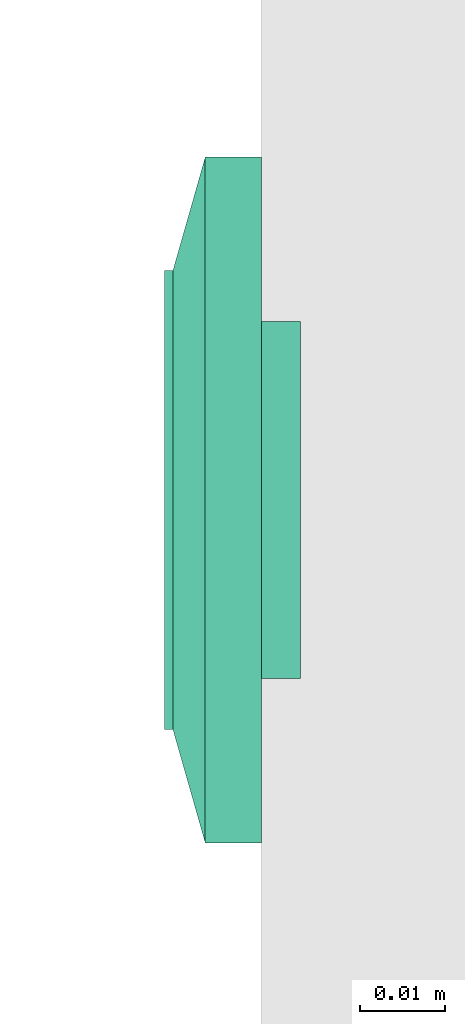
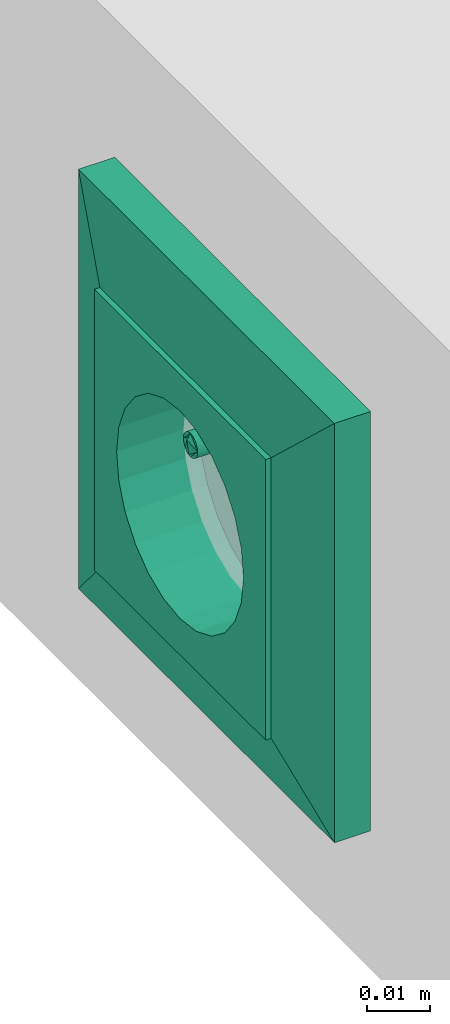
# One storey, part 138 of 153: 1 flow terminal.
"""IFC2X3 building model written with IfcOpenShell, lengths in metres."""

from ifc_helpers import new_model, entity, si_unit, converted_unit, derived_unit, direction, frame, origin, place, context, subcontext, project, spatial, face_set, surface_model, source, transform, mapped, type_object, type_shapes, element, save


model = new_model("IFC2X3")

# Units and contexts
model_context = context("Model", 3, precision=1e-05, world=origin(), true_north=direction((6.12303176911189e-17, 1.0)))
body_context = subcontext(model_context, "Body", "Model", "MODEL_VIEW")
ifc_project = project(units=[si_unit("LENGTHUNIT", "METRE"), si_unit("AREAUNIT", "SQUARE_METRE"), si_unit("VOLUMEUNIT", "CUBIC_METRE"), converted_unit("PLANEANGLEUNIT", "DEGREE", entity("IfcRatioMeasure", 0.0174532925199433), si_unit("PLANEANGLEUNIT", "RADIAN"), dimensions=[0, 0, 0, 0, 0, 0, 0]), si_unit("MASSUNIT", "GRAM", prefix="KILO"), derived_unit("MASSDENSITYUNIT", [(si_unit("MASSUNIT", "GRAM", prefix="KILO"), 1), (si_unit("LENGTHUNIT", "METRE"), -3)]), si_unit("TIMEUNIT", "SECOND"), si_unit("FREQUENCYUNIT", "HERTZ"), si_unit("THERMODYNAMICTEMPERATUREUNIT", "DEGREE_CELSIUS"), derived_unit("THERMALTRANSMITTANCEUNIT", [(si_unit("MASSUNIT", "GRAM", prefix="KILO"), 1), (si_unit("THERMODYNAMICTEMPERATUREUNIT", "KELVIN"), -1), (si_unit("TIMEUNIT", "SECOND"), -3)]), derived_unit("VOLUMETRICFLOWRATEUNIT", [(si_unit("LENGTHUNIT", "METRE"), 3), (si_unit("TIMEUNIT", "SECOND"), -1)]), si_unit("ELECTRICCURRENTUNIT", "AMPERE"), si_unit("ELECTRICVOLTAGEUNIT", "VOLT"), si_unit("POWERUNIT", "WATT"), si_unit("FORCEUNIT", "NEWTON"), si_unit("ILLUMINANCEUNIT", "LUX"), si_unit("LUMINOUSFLUXUNIT", "LUMEN"), si_unit("LUMINOUSINTENSITYUNIT", "CANDELA"), derived_unit("USERDEFINED", [(si_unit("MASSUNIT", "GRAM", prefix="KILO"), -1), (si_unit("LENGTHUNIT", "METRE"), -2), (si_unit("TIMEUNIT", "SECOND"), 3), (si_unit("LUMINOUSFLUXUNIT", "LUMEN"), 1)]), derived_unit("LINEARVELOCITYUNIT", [(si_unit("LENGTHUNIT", "METRE"), 1), (si_unit("TIMEUNIT", "SECOND"), -1)]), si_unit("PRESSUREUNIT", "PASCAL"), derived_unit("USERDEFINED", [(si_unit("LENGTHUNIT", "METRE"), -2), (si_unit("MASSUNIT", "GRAM", prefix="KILO"), 1), (si_unit("TIMEUNIT", "SECOND"), -2)])], contexts=[model_context])

# Site, building, storey
site_placement = place(None, origin())
site = spatial("IfcSite", under=ifc_project, at=site_placement, Name="Default", CompositionType="ELEMENT")
building_placement = place(site_placement, origin())
building = spatial("IfcBuilding", under=site, at=building_placement, CompositionType="ELEMENT")
storey_placement = place(building_placement, frame((0.0, 0.0, -4.62)))
storey = spatial("IfcBuildingStorey", under=building, at=storey_placement, Name="S02", CompositionType="ELEMENT", Elevation=-4.62)

# Flow terminal
light_fixture_type = type_object("IfcLightFixtureType", Name="IP20 ONDULEE", PredefinedType="NOTDEFINED")
shared_shape = source(origin(), body_context, "Body", "SurfaceModel", [
    surface_model("IfcFaceBasedSurfaceModel", [(-0.00225000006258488, 0.0127499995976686, 0.00949633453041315), (0.0, 0.0104999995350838, 0.00949633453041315), (0.0, 0.0115376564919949, 0.0101656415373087), (0.0, 0.0139623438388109, 0.0101656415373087), (0.0, 0.0144589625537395, 0.00984531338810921), (0.0, 0.0121178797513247, 0.0102778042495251), (0.0, 0.0133821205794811, 0.0102778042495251), (0.0, 0.0127499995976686, 0.010399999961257), (0.0, 0.0149999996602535, 0.00949633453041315), (0.00225000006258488, 0.0127499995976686, 0.00949633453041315), (0.0, 0.0110410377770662, 0.00984531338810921), (0.0, 0.0127499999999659, 0.00949633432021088), (0.00225000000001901, 0.0127499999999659, 0.00949633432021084), (0.00217333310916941, 0.0121676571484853, 0.00949633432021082), (0.00194855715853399, 0.0116249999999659, 0.00949633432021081), (0.00159099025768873, 0.0111590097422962, 0.00949633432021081), (0.001125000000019, 0.010801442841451, 0.00949633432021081), (0.00058234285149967, 0.0105766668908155, 0.00949633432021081), (0.0, 0.0104999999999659, 0.00949633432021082), (-0.000582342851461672, 0.0105766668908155, 0.00949633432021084), (-0.001124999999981, 0.010801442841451, 0.00949633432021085), (-0.00159099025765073, 0.0111590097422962, 0.00949633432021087), (-0.00194855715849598, 0.011624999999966, 0.00949633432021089), (-0.0021733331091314, 0.0121676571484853, 0.00949633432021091), (-0.00224999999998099, 0.012749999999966, 0.00949633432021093), (-0.00217333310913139, 0.0133323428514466, 0.00949633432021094), (-0.00194855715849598, 0.013874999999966, 0.00949633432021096), (-0.00159099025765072, 0.0143409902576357, 0.00949633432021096), (-0.00112499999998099, 0.0146985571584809, 0.00949633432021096), (-0.00058234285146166, 0.0149233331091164, 0.00949633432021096), (0.0, 0.0149999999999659, 0.00949633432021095), (0.000582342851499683, 0.0149233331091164, 0.00949633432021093), (0.00112500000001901, 0.0146985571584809, 0.00949633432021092), (0.00159099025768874, 0.0143409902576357, 0.00949633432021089), (0.001948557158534, 0.0138749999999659, 0.00949633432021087), (0.00217333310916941, 0.0133323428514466, 0.00949633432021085), (0.00225000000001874, 0.0127499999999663, -0.00360000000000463), (0.00217333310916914, 0.0121676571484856, -0.00360000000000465), (0.00194855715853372, 0.0116249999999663, -0.00360000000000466), (0.00159099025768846, 0.0111590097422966, -0.00360000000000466), (0.00112500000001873, 0.0108014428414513, -0.00360000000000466), (0.000582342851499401, 0.0105766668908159, -0.00360000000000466), (0.0, 0.0104999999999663, -0.00360000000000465), (-0.000582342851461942, 0.0105766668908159, -0.00360000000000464), (-0.00112499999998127, 0.0108014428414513, -0.00360000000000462), (-0.001590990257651, 0.0111590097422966, -0.0036000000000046), (-0.00194855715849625, 0.0116249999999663, -0.00360000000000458), (-0.00217333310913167, 0.0121676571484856, -0.00360000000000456), (-0.00224999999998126, 0.0127499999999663, -0.00360000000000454), (-0.00217333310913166, 0.013332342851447, -0.00360000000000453), (-0.00194855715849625, 0.0138749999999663, -0.00360000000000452), (-0.00159099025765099, 0.014340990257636, -0.00360000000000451), (-0.00112499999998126, 0.0146985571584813, -0.00360000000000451), (-0.000582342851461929, 0.0149233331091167, -0.00360000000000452), (0.0, 0.0149999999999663, -0.00360000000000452), (0.000582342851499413, 0.0149233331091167, -0.00360000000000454), (0.00112500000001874, 0.0146985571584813, -0.00360000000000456), (0.00159099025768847, 0.014340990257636, -0.00360000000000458), (0.00194855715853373, 0.0138749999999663, -0.0036000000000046), (0.00217333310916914, 0.013332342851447, -0.00360000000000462), (0.0270000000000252, 0.026999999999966, 0.0113999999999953), (-0.0269999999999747, 0.026999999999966, 0.0113999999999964), (-0.0269999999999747, -0.0270000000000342, 0.0113999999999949), (0.0270000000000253, -0.0270000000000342, 0.0113999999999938), (-0.0199999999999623, 0.0, 0.0113999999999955), (-0.0193185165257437, -0.00517638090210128, 0.0113999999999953), (-0.0173205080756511, -0.0100000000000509, 0.0113999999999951), (-0.0141421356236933, -0.0141421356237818, 0.011399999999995), (-0.00999999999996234, -0.0173205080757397, 0.0113999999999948), (-0.00517638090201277, -0.0193185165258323, 0.0113999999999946), (0.0, -0.0200000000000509, 0.0113999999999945), (0.00517638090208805, -0.0193185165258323, 0.0113999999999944), (0.0100000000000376, -0.0173205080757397, 0.0113999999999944), (0.0141421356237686, -0.0141421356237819, 0.0113999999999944), (0.0173205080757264, -0.010000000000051, 0.0113999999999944), (0.0193185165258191, -0.00517638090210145, 0.0113999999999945), (0.0200000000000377, 0.0, 0.0113999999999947), (0.0193185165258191, 0.00517638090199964, 0.0113999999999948), (0.0173205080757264, 0.0099999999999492, 0.011399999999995), (0.0141421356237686, 0.0141421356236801, 0.0113999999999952), (0.0100000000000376, 0.0173205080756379, 0.0113999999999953), (0.00517638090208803, 0.0193185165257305, 0.0113999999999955), (0.0, 0.0199999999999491, 0.0113999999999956), (-0.00517638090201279, 0.0193185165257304, 0.0113999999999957), (-0.00999999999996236, 0.0173205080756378, 0.0113999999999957), (-0.0141421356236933, 0.01414213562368, 0.0113999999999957), (-0.0173205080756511, 0.00999999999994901, 0.0113999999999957), (-0.0193185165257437, 0.00517638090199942, 0.0113999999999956), (0.0270000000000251, 0.0269999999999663, 0.00199999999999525), (0.0270000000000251, -0.0270000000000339, 0.00199999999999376), (-0.0269999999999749, -0.0270000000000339, 0.00199999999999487), (-0.0269999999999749, 0.0269999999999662, 0.00199999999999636), (0.0210000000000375, 0.0, 0.00199999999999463), (0.0202844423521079, -0.00543519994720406, 0.00199999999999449), (0.0181865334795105, -0.0105000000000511, 0.0019999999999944), (0.0148492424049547, -0.0148492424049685, 0.00199999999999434), (0.0105000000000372, -0.0181865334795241, 0.00199999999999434), (0.0054351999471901, -0.0202844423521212, 0.00199999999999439), (0.0, -0.0210000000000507, 0.00199999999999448), (-0.00543519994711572, -0.020284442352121, 0.00199999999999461), (-0.0104999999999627, -0.0181865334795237, 0.00199999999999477), (-0.0148492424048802, -0.014849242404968, 0.00199999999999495), (-0.0181865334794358, -0.0105000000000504, 0.00199999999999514), (-0.020284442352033, -0.00543519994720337, 0.00199999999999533), (-0.0209999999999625, 0.0, 0.00199999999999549), (-0.0202844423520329, 0.0054351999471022, 0.00199999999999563), (-0.0181865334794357, 0.0104999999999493, 0.00199999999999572), (-0.01484924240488, 0.0148492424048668, 0.00199999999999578), (-0.0104999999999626, 0.0181865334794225, 0.00199999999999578), (-0.00543519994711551, 0.0202844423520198, 0.00199999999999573), (0.0, 0.0209999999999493, 0.00199999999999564), (0.00543519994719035, 0.0202844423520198, 0.00199999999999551), (0.0105000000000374, 0.0181865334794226, 0.00199999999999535), (0.0148492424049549, 0.0148492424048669, 0.00199999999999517), (0.0181865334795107, 0.0104999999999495, 0.00199999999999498), (0.0202844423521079, 0.00543519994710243, 0.00199999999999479), (0.0200000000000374, 0.0, -0.00360000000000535), (0.0193185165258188, -0.00517638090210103, -0.00360000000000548), (0.0173205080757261, -0.0100000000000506, -0.00360000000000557), (0.0141421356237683, -0.0141421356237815, -0.00360000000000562), (0.0100000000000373, -0.0173205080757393, -0.00360000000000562), (0.00517638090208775, -0.0193185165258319, -0.00360000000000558), (0.0, -0.0200000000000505, -0.00360000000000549), (-0.00517638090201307, -0.0193185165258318, -0.00360000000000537), (-0.00999999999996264, -0.0173205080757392, -0.00360000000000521), (-0.0141421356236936, -0.0141421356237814, -0.00360000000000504), (-0.0173205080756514, -0.0100000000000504, -0.00360000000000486), (-0.019318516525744, -0.00517638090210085, -0.00360000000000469), (-0.0199999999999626, 0.0, -0.00360000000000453), (-0.0193185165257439, 0.00517638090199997, -0.0036000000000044), (-0.0173205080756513, 0.00999999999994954, -0.00360000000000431), (-0.0141421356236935, 0.0141421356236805, -0.00360000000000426), (-0.00999999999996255, 0.0173205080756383, -0.00360000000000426), (-0.00517638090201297, 0.0193185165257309, -0.0036000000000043), (0.0, 0.0199999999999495, -0.00360000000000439), (0.00517638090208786, 0.0193185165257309, -0.00360000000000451), (0.0100000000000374, 0.0173205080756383, -0.00360000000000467), (0.0141421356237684, 0.0141421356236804, -0.00360000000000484), (0.0173205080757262, 0.0099999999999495, -0.00360000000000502), (0.0193185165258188, 0.00517638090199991, -0.00360000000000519), (-0.0123499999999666, 0.0, -0.00360000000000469), (-0.0122562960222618, -0.000711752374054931, -0.00360000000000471), (-0.0119815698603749, -0.00137500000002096, -0.00360000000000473), (-0.0115445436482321, -0.00194454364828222, -0.00360000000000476), (-0.0109749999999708, -0.00238156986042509, -0.00360000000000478), (-0.0103117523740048, -0.00265629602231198, -0.0036000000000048), (-0.00959999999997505, -0.00275000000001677, -0.00360000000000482), (-0.0088882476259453, -0.00265629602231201, -0.00360000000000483), (-0.00822499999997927, -0.00238156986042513, -0.00360000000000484), (-0.00765545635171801, -0.00194454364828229, -0.00360000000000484), (-0.00721843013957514, -0.00137500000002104, -0.00360000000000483), (-0.00694370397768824, -0.000711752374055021, -0.00360000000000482), (-0.00684999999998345, 0.0, -0.0036000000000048), (-0.00694370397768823, 0.000711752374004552, -0.00360000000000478), (-0.00721843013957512, 0.00137499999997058, -0.00360000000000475), (-0.00765545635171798, 0.00194454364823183, -0.00360000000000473), (-0.00822499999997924, 0.00238156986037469, -0.0036000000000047), (-0.00888824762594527, 0.00265629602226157, -0.00360000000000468), (-0.00959999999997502, 0.00274999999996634, -0.00360000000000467), (-0.0103117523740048, 0.00265629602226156, -0.00360000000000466), (-0.0109749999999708, 0.00238156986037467, -0.00360000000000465), (-0.011544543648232, 0.00194454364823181, -0.00360000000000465), (-0.0119815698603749, 0.00137499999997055, -0.00360000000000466), (-0.0122562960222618, 0.000711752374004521, -0.00360000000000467), (0.00685000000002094, 0.0, -0.00360000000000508), (0.0069437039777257, -0.00071175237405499, -0.0036000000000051), (0.00721843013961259, -0.00137500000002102, -0.00360000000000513), (0.00765545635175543, -0.00194454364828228, -0.00360000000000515), (0.00822500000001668, -0.00238156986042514, -0.00360000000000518), (0.00888824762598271, -0.00265629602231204, -0.0036000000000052), (0.00960000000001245, -0.00275000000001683, -0.00360000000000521), (0.0103117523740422, -0.00265629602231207, -0.00360000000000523), (0.0109750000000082, -0.00238156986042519, -0.00360000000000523), (0.0115445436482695, -0.00194454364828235, -0.00360000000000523), (0.0119815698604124, -0.0013750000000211, -0.00360000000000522), (0.0122562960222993, -0.00071175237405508, -0.00360000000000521), (0.012350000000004, 0.0, -0.00360000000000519), (0.0122562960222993, 0.000711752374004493, -0.00360000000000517), (0.0119815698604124, 0.00137499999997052, -0.00360000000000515), (0.0115445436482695, 0.00194454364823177, -0.00360000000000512), (0.0109750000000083, 0.00238156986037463, -0.0036000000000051), (0.0103117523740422, 0.00265629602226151, -0.00360000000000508), (0.00960000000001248, 0.00274999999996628, -0.00360000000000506), (0.00888824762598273, 0.0026562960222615, -0.00360000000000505), (0.0082250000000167, 0.00238156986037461, -0.00360000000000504), (0.00765545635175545, 0.00194454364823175, -0.00360000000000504), (0.0072184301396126, 0.00137499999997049, -0.00360000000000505), (0.00694370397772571, 0.000711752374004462, -0.00360000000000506), (0.0210000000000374, 0.0, -0.00460000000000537), (0.0202844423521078, -0.00543519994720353, -0.00460000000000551), (0.0181865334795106, -0.0105000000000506, -0.0046000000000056), (0.0148492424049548, -0.0148492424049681, -0.00460000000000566), (0.0105000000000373, -0.0181865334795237, -0.00460000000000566), (0.00543519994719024, -0.0202844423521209, -0.00460000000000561), (0.0, -0.0210000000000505, -0.00460000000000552), (-0.00543519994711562, -0.0202844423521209, -0.00460000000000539), (-0.0104999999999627, -0.0181865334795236, -0.00460000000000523), (-0.0148492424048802, -0.0148492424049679, -0.00460000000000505), (-0.0181865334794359, -0.0105000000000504, -0.00460000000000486), (-0.0202844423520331, -0.00543519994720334, -0.00460000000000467), (-0.0209999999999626, 0.0, -0.00460000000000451), (-0.020284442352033, 0.00543519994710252, -0.00460000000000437), (-0.0181865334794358, 0.0104999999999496, -0.00460000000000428), (-0.0148492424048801, 0.0148492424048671, -0.00460000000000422), (-0.0104999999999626, 0.0181865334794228, -0.00460000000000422), (-0.00543519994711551, 0.02028444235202, -0.00460000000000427), (0.0, 0.0209999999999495, -0.00460000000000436), (0.00543519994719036, 0.02028444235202, -0.00460000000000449), (0.0105000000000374, 0.0181865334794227, -0.00460000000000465), (0.0148492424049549, 0.014849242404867, -0.00460000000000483), (0.0181865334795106, 0.0104999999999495, -0.00460000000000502), (0.0202844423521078, 0.00543519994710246, -0.00460000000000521), (-0.00684999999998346, 0.0, -0.0046000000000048), (-0.00694370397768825, 0.000711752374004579, -0.00460000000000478), (-0.00721843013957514, 0.00137499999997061, -0.00460000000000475), (-0.007655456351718, 0.00194454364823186, -0.00460000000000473), (-0.00822499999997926, 0.00238156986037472, -0.0046000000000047), (-0.00888824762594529, 0.0026562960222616, -0.00460000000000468), (-0.00959999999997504, 0.00274999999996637, -0.00460000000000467), (-0.0103117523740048, 0.00265629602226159, -0.00460000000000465), (-0.0109749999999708, 0.0023815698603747, -0.00460000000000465), (-0.0115445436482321, 0.00194454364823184, -0.00460000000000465), (-0.0119815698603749, 0.00137499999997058, -0.00460000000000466), (-0.0122562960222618, 0.000711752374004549, -0.00460000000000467), (-0.0123499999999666, 0.0, -0.00460000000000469), (-0.0122562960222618, -0.000711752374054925, -0.00460000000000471), (-0.0119815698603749, -0.00137500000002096, -0.00460000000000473), (-0.0115445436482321, -0.00194454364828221, -0.00460000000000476), (-0.0109749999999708, -0.00238156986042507, -0.00460000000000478), (-0.0103117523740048, -0.00265629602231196, -0.0046000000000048), (-0.00959999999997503, -0.00275000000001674, -0.00460000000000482), (-0.00888824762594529, -0.00265629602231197, -0.00460000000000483), (-0.00822499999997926, -0.00238156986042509, -0.00460000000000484), (-0.007655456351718, -0.00194454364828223, -0.00460000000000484), (-0.00721843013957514, -0.00137500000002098, -0.00460000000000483), (-0.00694370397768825, -0.000711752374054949, -0.00460000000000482), (0.012350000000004, 0.0, -0.00460000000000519), (0.0122562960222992, 0.000711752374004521, -0.00460000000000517), (0.0119815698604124, 0.00137499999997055, -0.00460000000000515), (0.0115445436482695, 0.0019445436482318, -0.00460000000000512), (0.0109750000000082, 0.00238156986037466, -0.0046000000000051), (0.0103117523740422, 0.00265629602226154, -0.00460000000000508), (0.00960000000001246, 0.00274999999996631, -0.00460000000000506), (0.00888824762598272, 0.00265629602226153, -0.00460000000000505), (0.00822500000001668, 0.00238156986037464, -0.00460000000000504), (0.00765545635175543, 0.00194454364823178, -0.00460000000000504), (0.00721843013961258, 0.00137499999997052, -0.00460000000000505), (0.00694370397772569, 0.00071175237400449, -0.00460000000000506), (0.00685000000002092, 0.0, -0.00460000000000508), (0.00694370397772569, -0.000711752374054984, -0.0046000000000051), (0.00721843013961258, -0.00137500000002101, -0.00460000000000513), (0.00765545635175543, -0.00194454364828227, -0.00460000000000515), (0.00822500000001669, -0.00238156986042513, -0.00460000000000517), (0.00888824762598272, -0.00265629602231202, -0.0046000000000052), (0.00960000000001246, -0.0027500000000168, -0.00460000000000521), (0.0103117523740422, -0.00265629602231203, -0.00460000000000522), (0.0109750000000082, -0.00238156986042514, -0.00460000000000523), (0.0115445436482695, -0.00194454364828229, -0.00460000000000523), (0.0119815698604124, -0.00137500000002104, -0.00460000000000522), (0.0122562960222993, -0.000711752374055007, -0.00460000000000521), (0.040350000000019, 0.0403499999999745, 0.00659999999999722), (0.040350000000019, -0.0403500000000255, 0.00659999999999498), (-0.0403499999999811, -0.0403500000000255, 0.00659999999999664), (-0.0403499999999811, 0.0403499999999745, 0.00659999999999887), (0.027000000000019, 0.0269999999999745, 0.00659999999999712), (-0.0269999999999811, 0.0269999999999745, 0.00659999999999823), (-0.026999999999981, -0.0270000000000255, 0.00659999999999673), (0.027000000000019, -0.0270000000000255, 0.00659999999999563), (0.027000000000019, 0.0269999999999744, 0.0103999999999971), (-0.026999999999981, 0.0269999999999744, 0.0103999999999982), (-0.026999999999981, -0.0270000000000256, 0.0103999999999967), (0.027000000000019, -0.0270000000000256, 0.0103999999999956), (0.040350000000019, 0.0403499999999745, 0.00659999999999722), (0.040350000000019, -0.0403500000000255, 0.00659999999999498), (-0.0403499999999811, -0.0403500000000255, 0.00659999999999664), (-0.0403499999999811, 0.0403499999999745, 0.00659999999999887), (-0.0269999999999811, 0.0269999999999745, 0.00659999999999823), (-0.0269999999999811, -0.0270000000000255, 0.00659999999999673), (0.0270000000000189, -0.0270000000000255, 0.00659999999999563), (0.0270000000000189, 0.0269999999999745, 0.00659999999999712), (0.0403500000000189, 0.0403499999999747, 0.0), (0.0403500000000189, -0.0403500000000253, 0.0), (-0.0403499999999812, -0.0403500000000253, 0.0), (-0.0403499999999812, 0.0403499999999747, 0.0), (0.0270000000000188, 0.0269999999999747, 0.0), (-0.0269999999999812, 0.0269999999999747, 0.0), (-0.0269999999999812, -0.0270000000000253, 0.0), (0.0270000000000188, -0.0270000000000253, 0.0)], [face_set([[[0, 1, 2]], [[3, 4, 2, 5]], [[6, 3, 5, 7]], [[2, 4, 0]], [[4, 8, 0]], [[3, 9, 8]], [[1, 9, 10]], [[2, 3, 6, 7]], [[3, 10, 9]], [[2, 10, 3]], [[11, 1, 0, 8]], [[11, 8, 9, 1]]]), face_set([[[12, 13, 14, 15, 16, 17, 18, 19, 20, 21, 22, 23, 24, 25, 26, 27, 28, 29, 30, 31, 32, 33, 34, 35]], [[36, 37, 38, 39, 40, 41, 42, 43, 44, 45, 46, 47, 48, 49, 50, 51, 52, 53, 54, 55, 56, 57, 58, 59]], [[48, 47, 23, 24]], [[47, 46, 22, 23]], [[45, 44, 20, 21]], [[46, 45, 21, 22]], [[44, 43, 19, 20]], [[18, 19, 43, 42]], [[42, 41, 17, 18]], [[41, 40, 16, 17]], [[39, 38, 14, 15]], [[40, 39, 15, 16]], [[38, 37, 13, 14]], [[12, 13, 37, 36]], [[36, 59, 35, 12]], [[59, 58, 34, 35]], [[57, 56, 32, 33]], [[58, 57, 33, 34]], [[56, 55, 31, 32]], [[30, 31, 55, 54]], [[54, 53, 29, 30]], [[53, 52, 28, 29]], [[51, 50, 26, 27]], [[52, 51, 27, 28]], [[50, 49, 25, 26]], [[24, 25, 49, 48]]]), face_set([[[60, 61, 62, 63], [64, 65, 66, 67, 68, 69, 70, 71, 72, 73, 74, 75, 76, 77, 78, 79, 80, 81, 82, 83, 84, 85, 86, 87]], [[88, 89, 90, 91], [92, 93, 94, 95, 96, 97, 98, 99, 100, 101, 102, 103, 104, 105, 106, 107, 108, 109, 110, 111, 112, 113, 114, 115]], [[61, 60, 88, 91]], [[62, 61, 91, 90]], [[63, 62, 90, 89]], [[60, 63, 89, 88]], [[116, 117, 118, 119, 120, 121, 122, 123, 124, 125, 126, 127, 128, 129, 130, 131, 132, 133, 134, 135, 136, 137, 138, 139], [140, 141, 142, 143, 144, 145, 146, 147, 148, 149, 150, 151, 152, 153, 154, 155, 156, 157, 158, 159, 160, 161, 162, 163], [164, 165, 166, 167, 168, 169, 170, 171, 172, 173, 174, 175, 176, 177, 178, 179, 180, 181, 182, 183, 184, 185, 186, 187]], [[64, 128, 127, 65]], [[65, 127, 126, 66]], [[67, 125, 124, 68]], [[66, 126, 125, 67]], [[68, 124, 123, 69]], [[122, 70, 69, 123]], [[70, 122, 121, 71]], [[71, 121, 120, 72]], [[73, 119, 118, 74]], [[72, 120, 119, 73]], [[74, 118, 117, 75]], [[116, 76, 75, 117]], [[76, 116, 139, 77]], [[77, 139, 138, 78]], [[79, 137, 136, 80]], [[78, 138, 137, 79]], [[80, 136, 135, 81]], [[134, 82, 81, 135]], [[82, 134, 133, 83]], [[83, 133, 132, 84]], [[84, 132, 131, 85]], [[85, 131, 130, 86]], [[130, 129, 87, 86]], [[64, 87, 129, 128]], [[188, 189, 190, 191, 192, 193, 194, 195, 196, 197, 198, 199, 200, 201, 202, 203, 204, 205, 206, 207, 208, 209, 210, 211], [212, 213, 214, 215, 216, 217, 218, 219, 220, 221, 222, 223, 224, 225, 226, 227, 228, 229, 230, 231, 232, 233, 234, 235], [236, 237, 238, 239, 240, 241, 242, 243, 244, 245, 246, 247, 248, 249, 250, 251, 252, 253, 254, 255, 256, 257, 258, 259]], [[200, 199, 103, 104]], [[199, 198, 102, 103]], [[197, 196, 100, 101]], [[198, 197, 101, 102]], [[196, 195, 99, 100]], [[98, 99, 195, 194]], [[194, 193, 97, 98]], [[193, 192, 96, 97]], [[191, 190, 94, 95]], [[192, 191, 95, 96]], [[190, 189, 93, 94]], [[92, 93, 189, 188]], [[188, 211, 115, 92]], [[211, 210, 114, 115]], [[209, 208, 112, 113]], [[210, 209, 113, 114]], [[208, 207, 111, 112]], [[110, 111, 207, 206]], [[206, 205, 109, 110]], [[205, 204, 108, 109]], [[203, 202, 106, 107]], [[204, 203, 107, 108]], [[202, 201, 105, 106]], [[104, 105, 201, 200]], [[141, 225, 226, 142]], [[140, 224, 225, 141]], [[144, 228, 229, 145]], [[143, 227, 228, 144]], [[142, 226, 227, 143]], [[230, 146, 145, 229]], [[149, 233, 232, 148]], [[148, 232, 231, 147]], [[152, 212, 235, 151]], [[151, 235, 234, 150]], [[150, 234, 233, 149]], [[146, 230, 231, 147]], [[154, 214, 213, 153]], [[153, 213, 212, 152]], [[157, 217, 216, 156]], [[156, 216, 215, 155]], [[155, 215, 214, 154]], [[218, 158, 157, 217]], [[160, 220, 221, 161]], [[159, 219, 220, 160]], [[163, 223, 224, 140]], [[162, 222, 223, 163]], [[161, 221, 222, 162]], [[158, 218, 219, 159]], [[166, 250, 249, 165]], [[165, 249, 248, 164]], [[169, 253, 252, 168]], [[168, 252, 251, 167]], [[167, 251, 250, 166]], [[254, 170, 169, 253]], [[172, 256, 257, 173]], [[171, 255, 256, 172]], [[175, 259, 236, 176]], [[174, 258, 259, 175]], [[173, 257, 258, 174]], [[170, 254, 255, 171]], [[177, 237, 238, 178]], [[176, 236, 237, 177]], [[180, 240, 241, 181]], [[179, 239, 240, 180]], [[178, 238, 239, 179]], [[242, 182, 181, 241]], [[185, 245, 244, 184]], [[184, 244, 243, 183]], [[164, 248, 247, 187]], [[187, 247, 246, 186]], [[186, 246, 245, 185]], [[182, 242, 243, 183]]]), face_set([[[260, 261, 262, 263], [264, 265, 266, 267]], [[260, 268, 269, 263]], [[263, 269, 270, 262]], [[262, 270, 271, 261]], [[261, 271, 268, 260]], [[264, 265, 269, 268]], [[265, 266, 270, 269]], [[266, 267, 271, 270]], [[268, 271, 267, 264]]]), face_set([[[272, 273, 274, 275], [276, 277, 278, 279]], [[280, 281, 282, 283], [284, 285, 286, 287]], [[275, 272, 280, 283]], [[274, 275, 283, 282]], [[273, 274, 282, 281]], [[272, 273, 281, 280]], [[284, 285, 276, 279]], [[285, 286, 277, 276]], [[286, 287, 278, 277]], [[279, 278, 287, 284]]])]),
])
type_shapes(light_fixture_type, [shared_shape])
flow_terminal_placement = place(building_placement, frame((61.3337436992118, -186.718282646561, -4.18699999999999), z_axis=(-1.0, 0.0, 0.0), x_axis=(0.0, -1.0, 0.0)))
element("IfcFlowTerminal", 1, at=flow_terminal_placement, inside=storey, type_object=light_fixture_type, Name="INT Prise de courant:IP20 ONDULEE", ObjectType="INT Prise de courant:IP20 ONDULEE", context=body_context, shape_type="MappedRepresentation", body=[
    mapped(shared_shape, transform((0.0, 0.0, 0.0), scale=1.0)),
])

save(model, "model.ifc")
